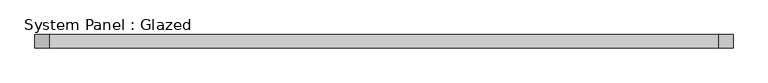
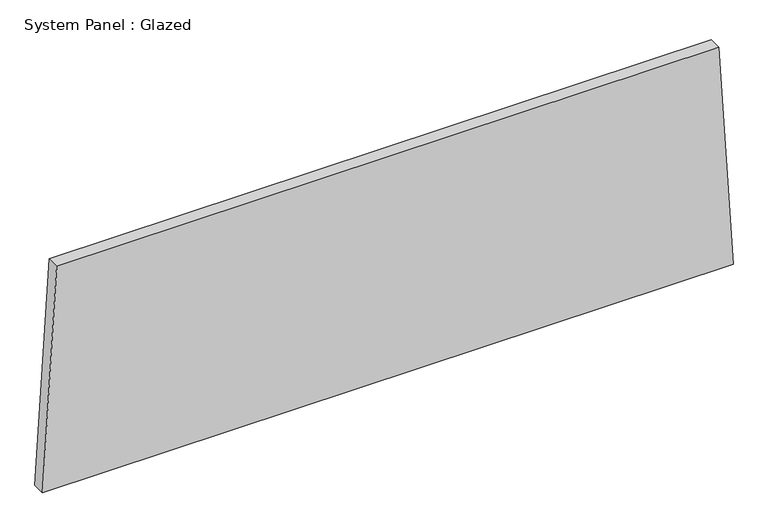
"""IFC4 building model written with IfcOpenShell, lengths in millimetres: plate geometry, System Panel : Glazed."""

from ifc_helpers import new_model, si_unit, frame, origin, place, context, project, spatial, polyline, outline, extrude, source, transform, mapped, element, save


def system_panel_glazed_4ac93396(model_context):
    return source(origin(), model_context, "Body", "SweptSolid", [
        extrude(outline(polyline([(0.0, -674.2686327), (0.0, 674.2686327), (457.7126706, 646.7499351), (457.7126706, -646.7499351), (0.0, -674.2686327)])), frame((0.0, -44.45, 0.0), z_axis=(0.0, 1.0, 0.0), x_axis=(0.0, 0.0, 1.0)), (0.0, 0.0, 1.0), 25.4),
    ])


if __name__ == "__main__":
    model = new_model("IFC4")
    model_context = context("Model", 3, world=origin())
    ifc_project = project(units=[si_unit("LENGTHUNIT", "METRE", prefix="MILLI")], contexts=[model_context])
    site = spatial("IfcSite", under=ifc_project)
    building = spatial("IfcBuilding", under=site)
    placement = place(None, origin())
    system_panel_glazed_shape = system_panel_glazed_4ac93396(model_context)
    element("IfcPlate", 1, ObjectType="System Panel : Glazed", at=placement, inside=building, context=model_context, shape_type="MappedRepresentation", body=[
        mapped(system_panel_glazed_shape, transform((0.0, 0.0, 0.0), x_axis=(1.0, 0.0, 0.0), y_axis=(0.0, 1.0, 0.0), z_axis=(0.0, 0.0, 1.0))),
    ])
    save(model, "model.ifc")
